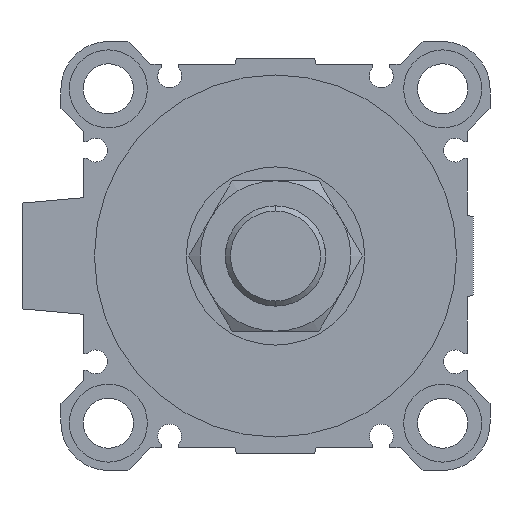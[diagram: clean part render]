
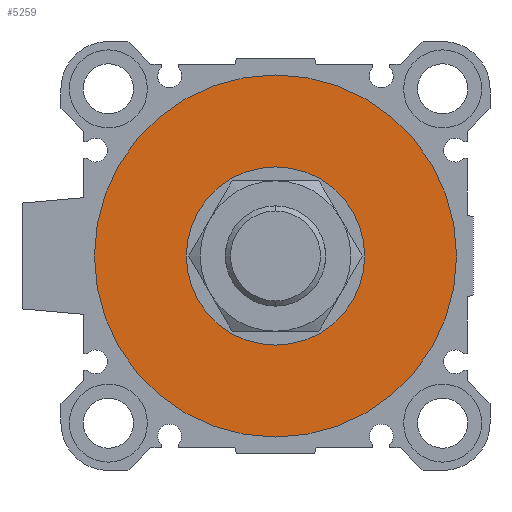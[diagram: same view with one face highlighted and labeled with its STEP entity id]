
A CAD part, left-side view. The second image highlights one B-rep face of the part: STEP entity #5259.
In plain terms, the highlighted planar face has unit normal (-1, 0, 0).
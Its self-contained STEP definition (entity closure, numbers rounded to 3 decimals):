
#1175 = CIRCLE ( 'NONE', #1417, 16. ) ;
#1216 = AXIS2_PLACEMENT_3D ( 'NONE', #3788, #7320, #7280 ) ;
#1417 = AXIS2_PLACEMENT_3D ( 'NONE', #4190, #1756, #2945 ) ;
#1504 = DIRECTION ( 'NONE',  ( 1., 0., 0. ) ) ;
#1545 = CIRCLE ( 'NONE', #5450, 32.5 ) ;
#1582 = CARTESIAN_POINT ( 'NONE',  ( 4., 0., 0. ) ) ;
#1756 = DIRECTION ( 'NONE',  ( 1., 0., 0. ) ) ;
#1827 = CARTESIAN_POINT ( 'NONE',  ( 4., 0., 0. ) ) ;
#2082 = PLANE ( 'NONE',  #7188 ) ;
#2158 = DIRECTION ( 'NONE',  ( 0., 1., 0. ) ) ;
#2166 = DIRECTION ( 'NONE',  ( 1., 0., 0. ) ) ;
#2439 = ORIENTED_EDGE ( 'NONE', *, *, #3687, .F. ) ;
#2696 = CIRCLE ( 'NONE', #1216, 32.5 ) ;
#2868 = VERTEX_POINT ( 'NONE', #3769 ) ;
#2945 = DIRECTION ( 'NONE',  ( 0., 0., -1. ) ) ;
#3032 = EDGE_CURVE ( 'NONE', #6383, #3053, #7533, .T. ) ;
#3053 = VERTEX_POINT ( 'NONE', #4986 ) ;
#3188 = FACE_OUTER_BOUND ( 'NONE', #3345, .T. ) ;
#3305 = DIRECTION ( 'NONE',  ( 0., 0., -1. ) ) ;
#3345 = EDGE_LOOP ( 'NONE', ( #2439, #5809 ) ) ;
#3406 = CARTESIAN_POINT ( 'NONE',  ( 4., 0., -32.5 ) ) ;
#3687 = EDGE_CURVE ( 'NONE', #2868, #6430, #2696, .T. ) ;
#3769 = CARTESIAN_POINT ( 'NONE',  ( 4., 0., 32.5 ) ) ;
#3788 = CARTESIAN_POINT ( 'NONE',  ( 4., 0., 0. ) ) ;
#3914 = FACE_BOUND ( 'NONE', #6737, .T. ) ;
#4054 = ORIENTED_EDGE ( 'NONE', *, *, #3032, .T. ) ;
#4190 = CARTESIAN_POINT ( 'NONE',  ( 4., 0., 0. ) ) ;
#4194 = EDGE_CURVE ( 'NONE', #6430, #2868, #1545, .T. ) ;
#4223 = EDGE_CURVE ( 'NONE', #3053, #6383, #1175, .T. ) ;
#4621 = DIRECTION ( 'NONE',  ( 0., 0., -1. ) ) ;
#4986 = CARTESIAN_POINT ( 'NONE',  ( 4., 0., -16. ) ) ;
#5193 = AXIS2_PLACEMENT_3D ( 'NONE', #1582, #2166, #3305 ) ;
#5259 = ADVANCED_FACE ( 'NONE', ( #3188, #3914 ), #2082, .F. ) ;
#5450 = AXIS2_PLACEMENT_3D ( 'NONE', #1827, #5850, #4621 ) ;
#5554 = CARTESIAN_POINT ( 'NONE',  ( 4., 0., 0. ) ) ;
#5809 = ORIENTED_EDGE ( 'NONE', *, *, #4194, .F. ) ;
#5850 = DIRECTION ( 'NONE',  ( 1., 0., 0. ) ) ;
#6200 = ORIENTED_EDGE ( 'NONE', *, *, #4223, .T. ) ;
#6383 = VERTEX_POINT ( 'NONE', #7473 ) ;
#6430 = VERTEX_POINT ( 'NONE', #3406 ) ;
#6737 = EDGE_LOOP ( 'NONE', ( #4054, #6200 ) ) ;
#7188 = AXIS2_PLACEMENT_3D ( 'NONE', #5554, #1504, #2158 ) ;
#7280 = DIRECTION ( 'NONE',  ( 0., 0., -1. ) ) ;
#7320 = DIRECTION ( 'NONE',  ( 1., 0., 0. ) ) ;
#7473 = CARTESIAN_POINT ( 'NONE',  ( 4., 0., 16. ) ) ;
#7533 = CIRCLE ( 'NONE', #5193, 16. ) ;
